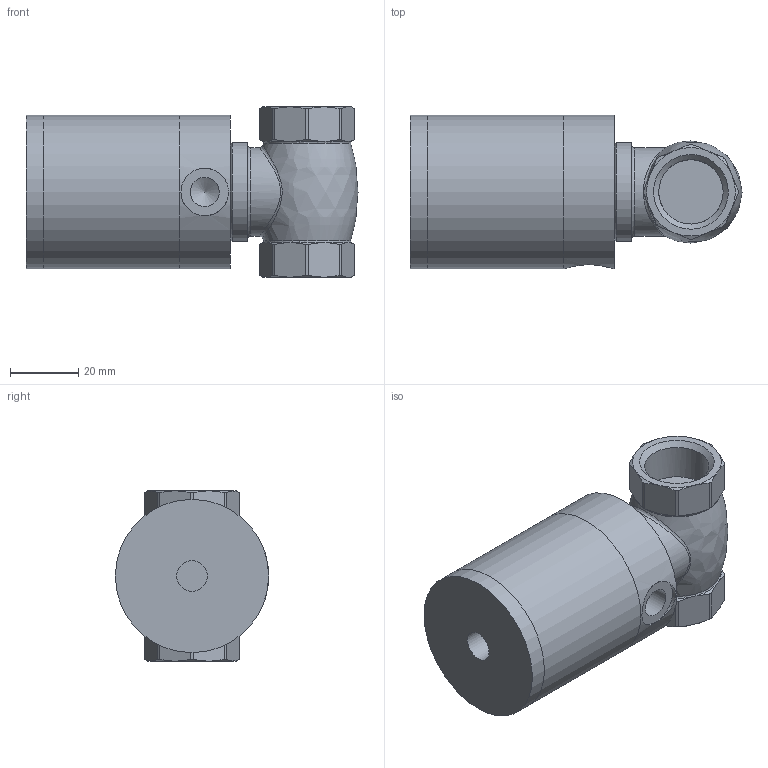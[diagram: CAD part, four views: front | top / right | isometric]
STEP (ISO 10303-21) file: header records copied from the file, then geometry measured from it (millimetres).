
FILE_DESCRIPTION(/* description */ ('STEP AP203'),/* implementation_level */ '2;1');
FILE_NAME(/* name */ 'D:\OneDrive\Disegni Air Matic\Inventor\3D AerFlux base\AerFlux12.stp',/* time_stamp */ '2020-06-03T15:50:10+02:00',/* author */ ('Alex'),/* organization */ (''),/* preprocessor_version */ 'ST-DEVELOPER v16.1',/* originating_system */ 'Autodesk Inventor 2016',/* authorisation */ '');
FILE_SCHEMA (('AUTOMOTIVE_DESIGN { 1 0 10303 214 3 1 1 }'));
Length unit declared in the file: millimetre
Products named in the file (5): SAICORPGDBO04; Testa Anteriore VA12; Tubo VA1234; Testa Posteriore VA1234; AerFlux12
Assembly tree (4 placements, depth 2):
  AerFlux12
    SAICORPGDBO04
    Testa Anteriore VA12
    Tubo VA1234
    Testa Posteriore VA1234
Bounding box: 97.5 x 45 x 50 mm (x, y, z)
Volume: 82550.8 mm3; surface area: 37585.2 mm2
Topology: 4 solids, 4 shells, 143 faces, 319 edges, 205 vertices
Faces by surface type: plane 64, cone 39, cylinder 33, bspline 4, torus 3
Full cylindrical faces by diameter (mm): 3 x1, 8.566 x1, 9 x1, 10.05 x1, 11.5 x2, 14 x1, 14.8 x2, 15 x1, 18.9 x2, 19 x2, 19.5 x1, 21 x1, 21.5 x1, 26 x1, 27 x2, 29 x1, 38 x2, 40 x1, 42 x4, 42.7 x2, 45 x3
Entity records: 5134 total; most frequent: CARTESIAN_POINT 2205, DIRECTION 602, ORIENTED_EDGE 532, AXIS2_PLACEMENT_3D 284, EDGE_CURVE 266, EDGE_LOOP 216, VERTEX_POINT 196, FACE_OUTER_BOUND 143
